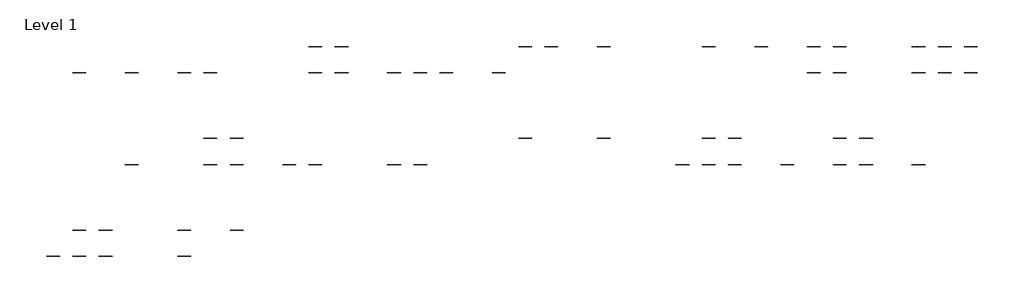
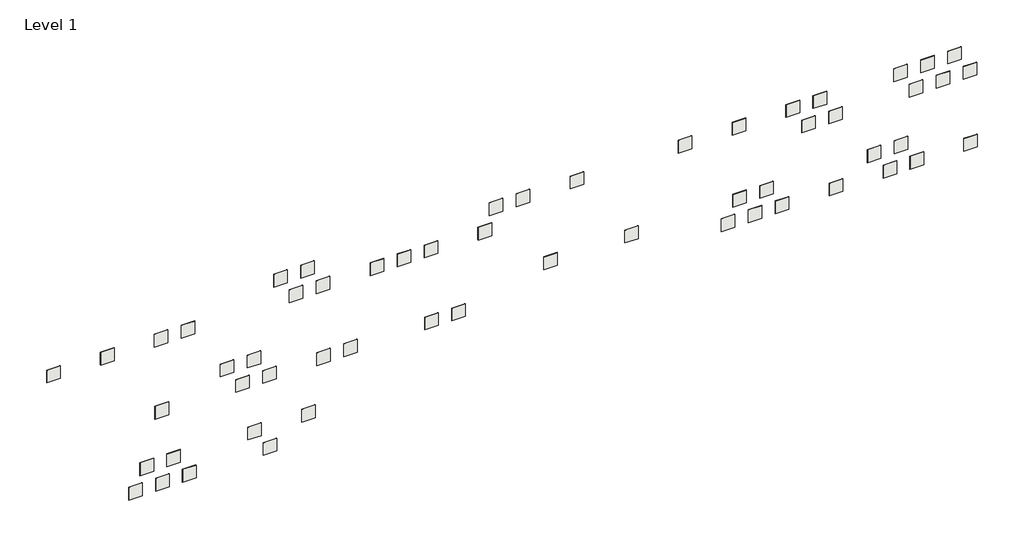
# One storey: 57 coverings.
"""IFC4 building model written with IfcOpenShell, lengths in millimetres."""

from ifc_helpers import new_model, si_unit, origin, origin_with_axes, place, context, project, spatial, polyline, outline, extrude, element, save

model = new_model("IFC4")

# Units and contexts
model_context = context("Model", 3, world=origin())
ifc_project = project(units=[si_unit("LENGTHUNIT", "METRE", prefix="MILLI")], contexts=[model_context])

# Site, building, storey
site = spatial("IfcSite", under=ifc_project)
building = spatial("IfcBuilding", under=site)
storey = spatial("IfcBuildingStorey", under=building, Name="Level 1", Elevation=0.0)

# Coverings
placement = place(None, origin())
element("IfcCovering", 1, ObjectType="REVIGRÉS-CROMATICA-BR-07x29.5-MATTRECT-Cromatica_alloy", at=placement, inside=storey, context=model_context, shape_type="SweptSolid", body=[
    extrude(outline(polyline([(3002.0475963, 19398.4324289), (2002.0475963, 19398.4324289), (2002.0475963, 19406.9324289), (3002.0475963, 19406.9324289), (3002.0475963, 19398.4324289)])), origin_with_axes(), (0.0, 0.0, 1.0), 1000.0),
])
element("IfcCovering", 2, ObjectType="REVIGRÉS-CROMATICA-BR-07x29.5-MATTRECT-Cromatica_anis", at=placement, inside=storey, context=model_context, shape_type="SweptSolid", body=[
    extrude(outline(polyline([(10002.0475963, 19406.9324289), (11002.0475963, 19406.9324289), (11002.0475963, 19398.4324289), (10002.0475963, 19398.4324289), (10002.0475963, 19406.9324289)])), origin_with_axes(), (0.0, 0.0, 1.0), 1000.0),
])
element("IfcCovering", 3, ObjectType="REVIGRÉS-CROMATICA-BR-07x29.5-POL-Cromatica_anis", at=placement, inside=storey, context=model_context, shape_type="SweptSolid", body=[
    extrude(outline(polyline([(12002.0475963, 19406.4324289), (13002.0475963, 19406.4324289), (13002.0475963, 19398.4324289), (12002.0475963, 19398.4324289), (12002.0475963, 19406.4324289)])), origin_with_axes(), (0.0, 0.0, 1.0), 1000.0),
])
element("IfcCovering", 4, ObjectType="REVIGRÉS-CROMATICA-BR-07x59.2-POL-Cromatica_antracite", at=placement, inside=storey, context=model_context, shape_type="SweptSolid", body=[
    extrude(outline(polyline([(20002.0475963, 21406.4324289), (21002.0475963, 21406.4324289), (21002.0475963, 21398.4324289), (20002.0475963, 21398.4324289), (20002.0475963, 21406.4324289)])), origin_with_axes(), (0.0, 0.0, 1.0), 1000.0),
])
element("IfcCovering", 5, ObjectType="REVIGRÉS-CROMATICA-BR-07x59.2-SOFT-Cromatica_antracite", at=placement, inside=storey, context=model_context, shape_type="SweptSolid", body=[
    extrude(outline(polyline([(22002.0475963, 21406.9324289), (23002.0475963, 21406.9324289), (23002.0475963, 21398.4324289), (22002.0475963, 21398.4324289), (22002.0475963, 21406.9324289)])), origin_with_axes(), (0.0, 0.0, 1.0), 1000.0),
])
element("IfcCovering", 6, ObjectType="REVIGRÉS-CROMATICA-BR-07x29.5-SOFT-Cromatica_antracite", at=placement, inside=storey, context=model_context, shape_type="SweptSolid", body=[
    extrude(outline(polyline([(22002.0475963, 19406.6824289), (23002.0475963, 19406.6824289), (23002.0475963, 19398.1824289), (22002.0475963, 19398.1824289), (22002.0475963, 19406.6824289)])), origin_with_axes(), (0.0, 0.0, 1.0), 1000.0),
])
element("IfcCovering", 7, ObjectType="REVIGRÉS-CROMATICA-BR-07x29.5-POL-Cromatica_antracite", at=placement, inside=storey, context=model_context, shape_type="SweptSolid", body=[
    extrude(outline(polyline([(20002.0475963, 19406.4324289), (21002.0475963, 19406.4324289), (21002.0475963, 19398.4324289), (20002.0475963, 19398.4324289), (20002.0475963, 19406.4324289)])), origin_with_axes(), (0.0, 0.0, 1.0), 1000.0),
])
element("IfcCovering", 8, ObjectType="REVIGRÉS-CROMATICA-BR-07x29.5-SOFT-Cromatica_bege", at=placement, inside=storey, context=model_context, shape_type="SweptSolid", body=[
    extrude(outline(polyline([(30002.0475963, 19406.4324289), (31002.0475963, 19406.4324289), (31002.0475963, 19398.4324289), (30002.0475963, 19398.4324289), (30002.0475963, 19406.4324289)])), origin_with_axes(), (0.0, 0.0, 1.0), 1000.0),
])
element("IfcCovering", 9, ObjectType="REVIGRÉS-CROMATICA-BR-07x29.5-MATTRECT-Cromatica_bege", at=placement, inside=storey, context=model_context, shape_type="SweptSolid", body=[
    extrude(outline(polyline([(26002.0475963, 19406.9324289), (27002.0475963, 19406.9324289), (27002.0475963, 19398.4324289), (26002.0475963, 19398.4324289), (26002.0475963, 19406.9324289)])), origin_with_axes(), (0.0, 0.0, 1.0), 1000.0),
])
element("IfcCovering", 10, ObjectType="REVIGRÉS-CROMATICA-BR-07x59.2-POL-Cromatica_bone", at=placement, inside=storey, context=model_context, shape_type="SweptSolid", body=[
    extrude(outline(polyline([(36002.0475963, 21406.4324289), (37002.0475963, 21406.4324289), (37002.0475963, 21398.4324289), (36002.0475963, 21398.4324289), (36002.0475963, 21406.4324289)])), origin_with_axes(), (0.0, 0.0, 1.0), 1000.0),
])
element("IfcCovering", 11, ObjectType="REVIGRÉS-CROMATICA-BR-07x59.2-SOFT-Cromatica_bone", at=placement, inside=storey, context=model_context, shape_type="SweptSolid", body=[
    extrude(outline(polyline([(38002.0475963, 21406.9324289), (39002.0475963, 21406.9324289), (39002.0475963, 21398.4324289), (38002.0475963, 21398.4324289), (38002.0475963, 21406.9324289)])), origin_with_axes(), (0.0, 0.0, 1.0), 1000.0),
])
element("IfcCovering", 12, ObjectType="REVIGRÉS-CROMATICA-BR-07x29.5-MATTRECT-Cromatica_bone", at=placement, inside=storey, context=model_context, shape_type="SweptSolid", body=[
    extrude(outline(polyline([(34002.0475963, 19406.9324289), (35002.0475963, 19406.9324289), (35002.0475963, 19398.4324289), (34002.0475963, 19398.4324289), (34002.0475963, 19406.9324289)])), origin_with_axes(), (0.0, 0.0, 1.0), 1000.0),
])
element("IfcCovering", 13, ObjectType="REVIGRÉS-CROMATICA-BR-07x59.2-MATTRECT-Cromatica_cobalto", at=placement, inside=storey, context=model_context, shape_type="SweptSolid", body=[
    extrude(outline(polyline([(42002.0475963, 21406.9324289), (43002.0475963, 21406.9324289), (43002.0475963, 21398.4324289), (42002.0475963, 21398.4324289), (42002.0475963, 21406.9324289)])), origin_with_axes(), (0.0, 0.0, 1.0), 1000.0),
])
element("IfcCovering", 14, ObjectType="REVIGRÉS-CROMATICA-BR-07x29.5-POL-Cromatica_grafite", at=placement, inside=storey, context=model_context, shape_type="SweptSolid", body=[
    extrude(outline(polyline([(60002.0475963, 19406.4324289), (61002.0475963, 19406.4324289), (61002.0475963, 19398.4324289), (60002.0475963, 19398.4324289), (60002.0475963, 19406.4324289)])), origin_with_axes(), (0.0, 0.0, 1.0), 1000.0),
])
element("IfcCovering", 15, ObjectType="REVIGRÉS-CROMATICA-BR-07x29.5-MATTRECT-Cromatica_grafite", at=placement, inside=storey, context=model_context, shape_type="SweptSolid", body=[
    extrude(outline(polyline([(58002.0475963, 19406.9324289), (59002.0475963, 19406.9324289), (59002.0475963, 19398.4324289), (58002.0475963, 19398.4324289), (58002.0475963, 19406.9324289)])), origin_with_axes(), (0.0, 0.0, 1.0), 1000.0),
])
element("IfcCovering", 16, ObjectType="REVIGRÉS-CROMATICA-BR-07x59.2-POL-Cromatica_grafite", at=placement, inside=storey, context=model_context, shape_type="SweptSolid", body=[
    extrude(outline(polyline([(60002.0475963, 21406.4324289), (61002.0475963, 21406.4324289), (61002.0475963, 21398.4324289), (60002.0475963, 21398.4324289), (60002.0475963, 21406.4324289)])), origin_with_axes(), (0.0, 0.0, 1.0), 1000.0),
])
element("IfcCovering", 17, ObjectType="REVIGRÉS-CROMATICA-BR-07x59.2-MATTRECT-Cromatica_grafite", at=placement, inside=storey, context=model_context, shape_type="SweptSolid", body=[
    extrude(outline(polyline([(58002.0475963, 21406.9324289), (59002.0475963, 21406.9324289), (59002.0475963, 21398.4324289), (58002.0475963, 21398.4324289), (58002.0475963, 21406.9324289)])), origin_with_axes(), (0.0, 0.0, 1.0), 1000.0),
])
element("IfcCovering", 18, ObjectType="REVIGRÉS-CROMATICA-BR-07x29.5-POL-Cromatica_ice", at=placement, inside=storey, context=model_context, shape_type="SweptSolid", body=[
    extrude(outline(polyline([(68002.0475963, 19406.4324289), (69002.0475963, 19406.4324289), (69002.0475963, 19398.4324289), (68002.0475963, 19398.4324289), (68002.0475963, 19406.4324289)])), origin_with_axes(), (0.0, 0.0, 1.0), 1000.0),
])
element("IfcCovering", 19, ObjectType="REVIGRÉS-CROMATICA-BR-07x29.5-MATTRECT-Cromatica_ice", at=placement, inside=storey, context=model_context, shape_type="SweptSolid", body=[
    extrude(outline(polyline([(66002.0475963, 19406.9324289), (67002.0475963, 19406.9324289), (67002.0475963, 19398.4324289), (66002.0475963, 19398.4324289), (66002.0475963, 19406.9324289)])), origin_with_axes(), (0.0, 0.0, 1.0), 1000.0),
])
element("IfcCovering", 20, ObjectType="REVIGRÉS-CROMATICA-BR-07x59.2-POL-Cromatica_ice", at=placement, inside=storey, context=model_context, shape_type="SweptSolid", body=[
    extrude(outline(polyline([(68002.0475963, 21406.4324289), (69002.0475963, 21406.4324289), (69002.0475963, 21398.4324289), (68002.0475963, 21398.4324289), (68002.0475963, 21406.4324289)])), origin_with_axes(), (0.0, 0.0, 1.0), 1000.0),
])
element("IfcCovering", 21, ObjectType="REVIGRÉS-CROMATICA-BR-07x59.2-MATTRECT-Cromatica_ice", at=placement, inside=storey, context=model_context, shape_type="SweptSolid", body=[
    extrude(outline(polyline([(66002.0475963, 21406.9324289), (67002.0475963, 21406.9324289), (67002.0475963, 21398.4324289), (66002.0475963, 21398.4324289), (66002.0475963, 21406.9324289)])), origin_with_axes(), (0.0, 0.0, 1.0), 1000.0),
])
element("IfcCovering", 22, ObjectType="REVIGRÉS-CROMATICA-BR-07x29.5-SOFT-Cromatica_indigo", at=placement, inside=storey, context=model_context, shape_type="SweptSolid", body=[
    extrude(outline(polyline([(6002.0475963, 12406.932429), (7002.0475963, 12406.932429), (7002.0475963, 12398.432429), (6002.0475963, 12398.432429), (6002.0475963, 12406.932429)])), origin_with_axes(), (0.0, 0.0, 1.0), 1000.0),
])
element("IfcCovering", 23, ObjectType="REVIGRÉS-CROMATICA-BR-07x29.5-POL-Cromatica_jet", at=placement, inside=storey, context=model_context, shape_type="SweptSolid", body=[
    extrude(outline(polyline([(12002.0475963, 12406.682429), (13002.0475963, 12406.682429), (13002.0475963, 12398.682429), (12002.0475963, 12398.682429), (12002.0475963, 12406.682429)])), origin_with_axes(), (0.0, 0.0, 1.0), 1000.0),
])
element("IfcCovering", 24, ObjectType="REVIGRÉS-CROMATICA-BR-07x29.5-SOFT-Cromatica_jet", at=placement, inside=storey, context=model_context, shape_type="SweptSolid", body=[
    extrude(outline(polyline([(14002.0475963, 12406.682429), (15002.0475963, 12406.682429), (15002.0475963, 12398.182429), (14002.0475963, 12398.182429), (14002.0475963, 12406.682429)])), origin_with_axes(), (0.0, 0.0, 1.0), 1000.0),
])
element("IfcCovering", 25, ObjectType="REVIGRÉS-CROMATICA-BR-07x59.2-POL-Cromatica_jet", at=placement, inside=storey, context=model_context, shape_type="SweptSolid", body=[
    extrude(outline(polyline([(12002.0475963, 14406.682429), (13002.0475963, 14406.682429), (13002.0475963, 14398.682429), (12002.0475963, 14398.682429), (12002.0475963, 14406.682429)])), origin_with_axes(), (0.0, 0.0, 1.0), 1000.0),
])
element("IfcCovering", 26, ObjectType="REVIGRÉS-CROMATICA-BR-07x59.2-SOFT-Cromatica_jet", at=placement, inside=storey, context=model_context, shape_type="SweptSolid", body=[
    extrude(outline(polyline([(14002.0475963, 14406.682429), (15002.0475963, 14406.682429), (15002.0475963, 14398.182429), (14002.0475963, 14398.182429), (14002.0475963, 14406.682429)])), origin_with_axes(), (0.0, 0.0, 1.0), 1000.0),
])
element("IfcCovering", 27, ObjectType="REVIGRÉS-CROMATICA-BR-07x29.5-POL-Cromatica_ocre", at=placement, inside=storey, context=model_context, shape_type="SweptSolid", body=[
    extrude(outline(polyline([(20002.0475963, 12406.432429), (21002.0475963, 12406.432429), (21002.0475963, 12398.432429), (20002.0475963, 12398.432429), (20002.0475963, 12406.432429)])), origin_with_axes(), (0.0, 0.0, 1.0), 1000.0),
])
element("IfcCovering", 28, ObjectType="REVIGRÉS-CROMATICA-BR-07x29.5-MATTRECT-Cromatica_ocre", at=placement, inside=storey, context=model_context, shape_type="SweptSolid", body=[
    extrude(outline(polyline([(18002.0475963, 12406.932429), (19002.0475963, 12406.932429), (19002.0475963, 12398.432429), (18002.0475963, 12398.432429), (18002.0475963, 12406.932429)])), origin_with_axes(), (0.0, 0.0, 1.0), 1000.0),
])
element("IfcCovering", 29, ObjectType="REVIGRÉS-CROMATICA-BR-07x29.5-POL-Cromatica_oliva", at=placement, inside=storey, context=model_context, shape_type="SweptSolid", body=[
    extrude(outline(polyline([(28002.0475963, 12406.432429), (29002.0475963, 12406.432429), (29002.0475963, 12398.432429), (28002.0475963, 12398.432429), (28002.0475963, 12406.432429)])), origin_with_axes(), (0.0, 0.0, 1.0), 1000.0),
])
element("IfcCovering", 30, ObjectType="REVIGRÉS-CROMATICA-BR-07x29.5-MATTRECT-Cromatica_oliva", at=placement, inside=storey, context=model_context, shape_type="SweptSolid", body=[
    extrude(outline(polyline([(26002.0475963, 12406.932429), (27002.0475963, 12406.932429), (27002.0475963, 12398.432429), (26002.0475963, 12398.432429), (26002.0475963, 12406.932429)])), origin_with_axes(), (0.0, 0.0, 1.0), 1000.0),
])
element("IfcCovering", 31, ObjectType="REVIGRÉS-CROMATICA-BR-07x59.2-POL-Cromatica_palm", at=placement, inside=storey, context=model_context, shape_type="SweptSolid", body=[
    extrude(outline(polyline([(36002.0475963, 14406.932429), (37002.0475963, 14406.932429), (37002.0475963, 14398.432429), (36002.0475963, 14398.432429), (36002.0475963, 14406.932429)])), origin_with_axes(), (0.0, 0.0, 1.0), 1000.0),
])
element("IfcCovering", 32, ObjectType="REVIGRÉS-CROMATICA-BR-07x29.5-MATTNAT-Cromatica_platina", at=placement, inside=storey, context=model_context, shape_type="SweptSolid", body=[
    extrude(outline(polyline([(48002.0475963, 12406.532429), (49002.0475963, 12406.532429), (49002.0475963, 12398.032429), (48002.0475963, 12398.032429), (48002.0475963, 12406.532429)])), origin_with_axes(), (0.0, 0.0, 1.0), 1000.0),
])
element("IfcCovering", 33, ObjectType="REVIGRÉS-CROMATICA-BR-07x29.5-POL-Cromatica_platina", at=placement, inside=storey, context=model_context, shape_type="SweptSolid", body=[
    extrude(outline(polyline([(52002.0475963, 12406.432429), (53002.0475963, 12406.432429), (53002.0475963, 12398.432429), (52002.0475963, 12398.432429), (52002.0475963, 12406.432429)])), origin_with_axes(), (0.0, 0.0, 1.0), 1000.0),
])
element("IfcCovering", 34, ObjectType="REVIGRÉS-CROMATICA-BR-07x29.5-MATTRECT-Cromatica_platina", at=placement, inside=storey, context=model_context, shape_type="SweptSolid", body=[
    extrude(outline(polyline([(50002.0475963, 12406.932429), (51002.0475963, 12406.932429), (51002.0475963, 12398.432429), (50002.0475963, 12398.432429), (50002.0475963, 12406.932429)])), origin_with_axes(), (0.0, 0.0, 1.0), 1000.0),
])
element("IfcCovering", 35, ObjectType="REVIGRÉS-CROMATICA-BR-07x59.2-POL-Cromatica_platina", at=placement, inside=storey, context=model_context, shape_type="SweptSolid", body=[
    extrude(outline(polyline([(52002.0475963, 14406.432429), (53002.0475963, 14406.432429), (53002.0475963, 14398.432429), (52002.0475963, 14398.432429), (52002.0475963, 14406.432429)])), origin_with_axes(), (0.0, 0.0, 1.0), 1000.0),
])
element("IfcCovering", 36, ObjectType="REVIGRÉS-CROMATICA-BR-07x59.2-MATTRECT-Cromatica_platina", at=placement, inside=storey, context=model_context, shape_type="SweptSolid", body=[
    extrude(outline(polyline([(50002.0475963, 14406.932429), (51002.0475963, 14406.932429), (51002.0475963, 14398.432429), (50002.0475963, 14398.432429), (50002.0475963, 14406.932429)])), origin_with_axes(), (0.0, 0.0, 1.0), 1000.0),
])
element("IfcCovering", 37, ObjectType="REVIGRÉS-CROMATICA-BR-07x30-MATTNAT-Cromatica_preto", at=placement, inside=storey, context=model_context, shape_type="SweptSolid", body=[
    extrude(outline(polyline([(56002.0475963, 12406.532429), (57002.0475963, 12406.532429), (57002.0475963, 12398.032429), (56002.0475963, 12398.032429), (56002.0475963, 12406.532429)])), origin_with_axes(), (0.0, 0.0, 1.0), 1000.0),
])
element("IfcCovering", 38, ObjectType="REVIGRÉS-CROMATICA-BR-07x29.5-POL-Cromatica_preto", at=placement, inside=storey, context=model_context, shape_type="SweptSolid", body=[
    extrude(outline(polyline([(60002.0475963, 12406.432429), (61002.0475963, 12406.432429), (61002.0475963, 12398.432429), (60002.0475963, 12398.432429), (60002.0475963, 12406.432429)])), origin_with_axes(), (0.0, 0.0, 1.0), 1000.0),
])
element("IfcCovering", 39, ObjectType="REVIGRÉS-CROMATICA-BR-07x29.5-SOFT-Cromatica_preto", at=placement, inside=storey, context=model_context, shape_type="SweptSolid", body=[
    extrude(outline(polyline([(62002.0475963, 12406.682429), (63002.0475963, 12406.682429), (63002.0475963, 12398.182429), (62002.0475963, 12398.182429), (62002.0475963, 12406.682429)])), origin_with_axes(), (0.0, 0.0, 1.0), 1000.0),
])
element("IfcCovering", 40, ObjectType="REVIGRÉS-CROMATICA-BR-07x59.2-POL-Cromatica_preto", at=placement, inside=storey, context=model_context, shape_type="SweptSolid", body=[
    extrude(outline(polyline([(60002.0475963, 14406.682429), (61002.0475963, 14406.682429), (61002.0475963, 14398.682429), (60002.0475963, 14398.682429), (60002.0475963, 14406.682429)])), origin_with_axes(), (0.0, 0.0, 1.0), 1000.0),
])
element("IfcCovering", 41, ObjectType="REVIGRÉS-CROMATICA-BR-07x59.2-SOFT-Cromatica_preto", at=placement, inside=storey, context=model_context, shape_type="SweptSolid", body=[
    extrude(outline(polyline([(62002.0475963, 14406.932429), (63002.0475963, 14406.932429), (63002.0475963, 14398.432429), (62002.0475963, 14398.432429), (62002.0475963, 14406.932429)])), origin_with_axes(), (0.0, 0.0, 1.0), 1000.0),
])
element("IfcCovering", 42, ObjectType="REVIGRÉS-CROMATICA-BR-07x29.5-MATTRECT-Cromatica_quartz", at=placement, inside=storey, context=model_context, shape_type="SweptSolid", body=[
    extrude(outline(polyline([(66002.0475963, 12406.932429), (67002.0475963, 12406.932429), (67002.0475963, 12398.432429), (66002.0475963, 12398.432429), (66002.0475963, 12406.932429)])), origin_with_axes(), (0.0, 0.0, 1.0), 1000.0),
])
element("IfcCovering", 43, ObjectType="REVIGRÉS-CROMATICA-BR-07x30-MATTNAT-Cromatica_superbranco", at=placement, inside=storey, context=model_context, shape_type="SweptSolid", body=[
    extrude(outline(polyline([(2.0475963, 5406.932429), (1002.0475963, 5406.932429), (1002.0475963, 5398.432429), (2.0475963, 5398.432429), (2.0475963, 5406.932429)])), origin_with_axes(), (0.0, 0.0, 1.0), 1000.0),
])
element("IfcCovering", 44, ObjectType="REVIGRÉS-CROMATICA-BR-07x29.5-POL-Cromatica_superbranco", at=placement, inside=storey, context=model_context, shape_type="SweptSolid", body=[
    extrude(outline(polyline([(4002.0475963, 5406.432429), (5002.0475963, 5406.432429), (5002.0475963, 5398.432429), (4002.0475963, 5398.432429), (4002.0475963, 5406.432429)])), origin_with_axes(), (0.0, 0.0, 1.0), 1000.0),
])
element("IfcCovering", 45, ObjectType="REVIGRÉS-CROMATICA-BR-07x29.5-MATTRECT-Cromatica_superbranco", at=placement, inside=storey, context=model_context, shape_type="SweptSolid", body=[
    extrude(outline(polyline([(2002.0475963, 5406.932429), (3002.0475963, 5406.932429), (3002.0475963, 5398.432429), (2002.0475963, 5398.432429), (2002.0475963, 5406.932429)])), origin_with_axes(), (0.0, 0.0, 1.0), 1000.0),
])
element("IfcCovering", 46, ObjectType="REVIGRÉS-CROMATICA-BR-07x59.2-POL-Cromatica_superbranco", at=placement, inside=storey, context=model_context, shape_type="SweptSolid", body=[
    extrude(outline(polyline([(4002.0475963, 7406.432429), (5002.0475963, 7406.432429), (5002.0475963, 7398.432429), (4002.0475963, 7398.432429), (4002.0475963, 7406.432429)])), origin_with_axes(), (0.0, 0.0, 1.0), 1000.0),
])
element("IfcCovering", 47, ObjectType="REVIGRÉS-CROMATICA-BR-07x59.2-MATTRECT-Cromatica_superbranco", at=placement, inside=storey, context=model_context, shape_type="SweptSolid", body=[
    extrude(outline(polyline([(2002.0475963, 7406.932429), (3002.0475963, 7406.932429), (3002.0475963, 7398.432429), (2002.0475963, 7398.432429), (2002.0475963, 7406.932429)])), origin_with_axes(), (0.0, 0.0, 1.0), 1000.0),
])
element("IfcCovering", 48, ObjectType="REVIGRÉS-CROMATICA-BR-07x29.5-SOFT-Cromatica_alloy", at=placement, inside=storey, context=model_context, shape_type="SweptSolid", body=[
    extrude(outline(polyline([(7002.0475963, 19398.4324289), (6002.0475963, 19398.4324289), (6002.0475963, 19406.9324289), (7002.0475963, 19406.9324289), (7002.0475963, 19398.4324289)])), origin_with_axes(), (0.0, 0.0, 1.0), 1000.0),
])
element("IfcCovering", 49, ObjectType="REVIGRÉS-CROMATICA-BR-07x29.5-POL-Cromatica_bege", at=placement, inside=storey, context=model_context, shape_type="SweptSolid", body=[
    extrude(outline(polyline([(28002.0475963, 19406.4324289), (29002.0475963, 19406.4324289), (29002.0475963, 19398.4324289), (28002.0475963, 19398.4324289), (28002.0475963, 19406.4324289)])), origin_with_axes(), (0.0, 0.0, 1.0), 1000.0),
])
element("IfcCovering", 50, ObjectType="REVIGRÉS-CROMATICA-BR-07x59.2-MATTRECT-Cromatica_coral", at=placement, inside=storey, context=model_context, shape_type="SweptSolid", body=[
    extrude(outline(polyline([(50002.0475963, 21406.9324289), (51002.0475963, 21406.9324289), (51002.0475963, 21398.4324289), (50002.0475963, 21398.4324289), (50002.0475963, 21406.9324289)])), origin_with_axes(), (0.0, 0.0, 1.0), 1000.0),
])
element("IfcCovering", 51, ObjectType="REVIGRÉS-CROMATICA-BR-07x59.2-SOFT-Cromatica_coral", at=placement, inside=storey, context=model_context, shape_type="SweptSolid", body=[
    extrude(outline(polyline([(54002.0475963, 21406.9324289), (55002.0475963, 21406.9324289), (55002.0475963, 21398.4324289), (54002.0475963, 21398.4324289), (54002.0475963, 21406.9324289)])), origin_with_axes(), (0.0, 0.0, 1.0), 1000.0),
])
element("IfcCovering", 52, ObjectType="REVIGRÉS-CROMATICA-BR-07x29.5-SOFT-Cromatica_ice", at=placement, inside=storey, context=model_context, shape_type="SweptSolid", body=[
    extrude(outline(polyline([(70002.0475963, 19406.9324289), (71002.0475963, 19406.9324289), (71002.0475963, 19398.4324289), (70002.0475963, 19398.4324289), (70002.0475963, 19406.9324289)])), origin_with_axes(), (0.0, 0.0, 1.0), 1000.0),
])
element("IfcCovering", 53, ObjectType="REVIGRÉS-CROMATICA-BR-07x59.2-SOFT-Cromatica_ice", at=placement, inside=storey, context=model_context, shape_type="SweptSolid", body=[
    extrude(outline(polyline([(70002.0475963, 21406.9324289), (71002.0475963, 21406.9324289), (71002.0475963, 21398.4324289), (70002.0475963, 21398.4324289), (70002.0475963, 21406.9324289)])), origin_with_axes(), (0.0, 0.0, 1.0), 1000.0),
])
element("IfcCovering", 54, ObjectType="REVIGRÉS-CROMATICA-BR-07x29.5-MATTRECT-Cromatica_titanium", at=placement, inside=storey, context=model_context, shape_type="SweptSolid", body=[
    extrude(outline(polyline([(10002.0475963, 5406.932429), (11002.0475963, 5406.932429), (11002.0475963, 5398.432429), (10002.0475963, 5398.432429), (10002.0475963, 5406.932429)])), origin_with_axes(), (0.0, 0.0, 1.0), 1000.0),
])
element("IfcCovering", 55, ObjectType="REVIGRÉS-CROMATICA-BR-07x59.2-MATTRECT-Cromatica_titanium", at=placement, inside=storey, context=model_context, shape_type="SweptSolid", body=[
    extrude(outline(polyline([(10002.0475963, 7406.932429), (11002.0475963, 7406.932429), (11002.0475963, 7398.432429), (10002.0475963, 7398.432429), (10002.0475963, 7406.932429)])), origin_with_axes(), (0.0, 0.0, 1.0), 1000.0),
])
element("IfcCovering", 56, ObjectType="REVIGRÉS-CROMATICA-BR-07x59.2-MATTRECT-Cromatica_pistachio", at=placement, inside=storey, context=model_context, shape_type="SweptSolid", body=[
    extrude(outline(polyline([(42002.0475963, 14406.932429), (43002.0475963, 14406.932429), (43002.0475963, 14398.432429), (42002.0475963, 14398.432429), (42002.0475963, 14406.932429)])), origin_with_axes(), (0.0, 0.0, 1.0), 1000.0),
])
element("IfcCovering", 57, ObjectType="REVIGRÉS-CROMATICA-BR-07x59.2-SOFT-Cromatica_titanium", at=placement, inside=storey, context=model_context, shape_type="SweptSolid", body=[
    extrude(outline(polyline([(14002.0475963, 7406.932429), (15002.0475963, 7406.932429), (15002.0475963, 7398.432429), (14002.0475963, 7398.432429), (14002.0475963, 7406.932429)])), origin_with_axes(), (0.0, 0.0, 1.0), 1000.0),
])

save(model, "model.ifc")
